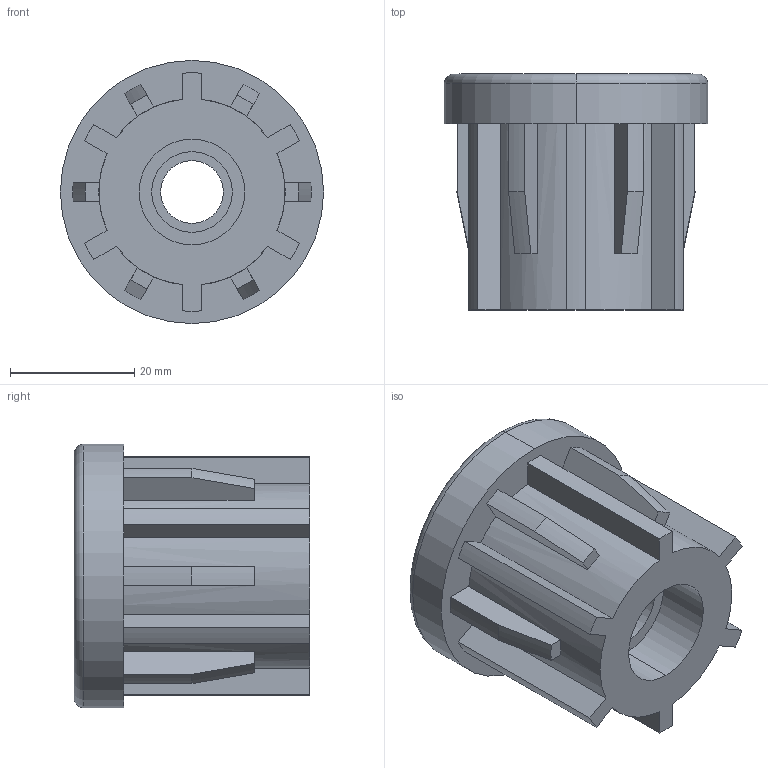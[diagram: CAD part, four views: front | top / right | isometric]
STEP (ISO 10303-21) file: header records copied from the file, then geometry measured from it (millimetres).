
FILE_DESCRIPTION (( 'STEP AP214' ), '1' );
FILE_NAME ('448-D42,4-D38,4-M12.step', '2025-04-09T11:52:39', ( '' ), ( '' ), 'SwSTEP 2.0', 'SolidWorks 2022', '' );
FILE_SCHEMA (( 'AUTOMOTIVE_DESIGN' ));
Length unit declared in the file: millimetre
Products named in the file (1): 448-D42,4-D38,4-M12
Bounding box: 42.4 x 38 x 42.4 mm (x, y, z)
Volume: 31241.9 mm3; surface area: 10386 mm2
Topology: 1 solids, 1 shells, 73 faces, 199 edges, 132 vertices
Faces by surface type: plane 36, cylinder 29, cone 6, torus 2
Entity records: 2431 total; most frequent: CARTESIAN_POINT 441, DIRECTION 415, ORIENTED_EDGE 398, EDGE_CURVE 199, AXIS2_PLACEMENT_3D 154, VERTEX_POINT 132, VECTOR 107, LINE 107
